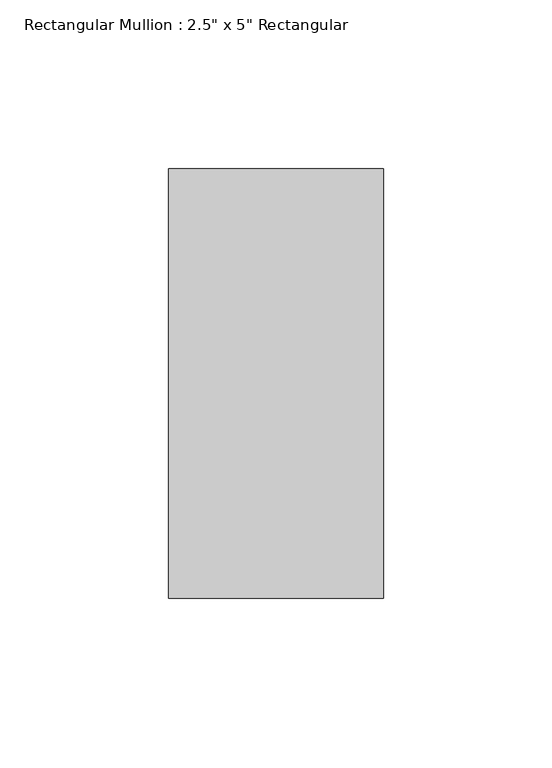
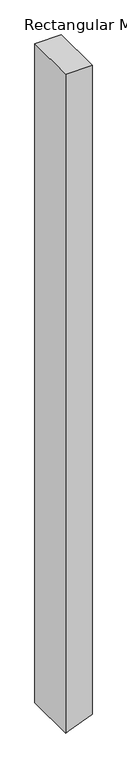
"""IFC4 building model written with IfcOpenShell, lengths in millimetres: member geometry."""

from ifc_helpers import new_model, si_unit, frame, origin, place, context, project, spatial, polyline, outline, extrude, source, transform, mapped, element, save


def member_c8a9c9a2(model_context):
    return source(origin(), model_context, "Body", "SweptSolid", [
        extrude(outline(polyline([(0.0, 31.75), (0.0, -31.75), (-1669.2252675, -31.75), (-1666.0811301, -24.0768927), (-1643.2054665, 31.75), (0.0, 31.75)])), frame((0.0, -63.5, 0.0), z_axis=(0.0, 1.0, 0.0), x_axis=(0.0, 0.0, 1.0)), (0.0, 0.0, 1.0), 127.0),
    ])


if __name__ == "__main__":
    model = new_model("IFC4")
    model_context = context("Model", 3, world=origin())
    ifc_project = project(units=[si_unit("LENGTHUNIT", "METRE", prefix="MILLI")], contexts=[model_context])
    site = spatial("IfcSite", under=ifc_project)
    building = spatial("IfcBuilding", under=site)
    placement = place(None, origin())
    member_shape = member_c8a9c9a2(model_context)
    element("IfcMember", 1, ObjectType="Rectangular Mullion : 2.5\" x 5\" Rectangular", at=placement, inside=building, context=model_context, shape_type="MappedRepresentation", body=[
        mapped(member_shape, transform((0.0, 0.0, 0.0), x_axis=(1.0, 0.0, 0.0), y_axis=(0.0, 1.0, 0.0), z_axis=(0.0, 0.0, 1.0))),
    ])
    save(model, "model.ifc")
